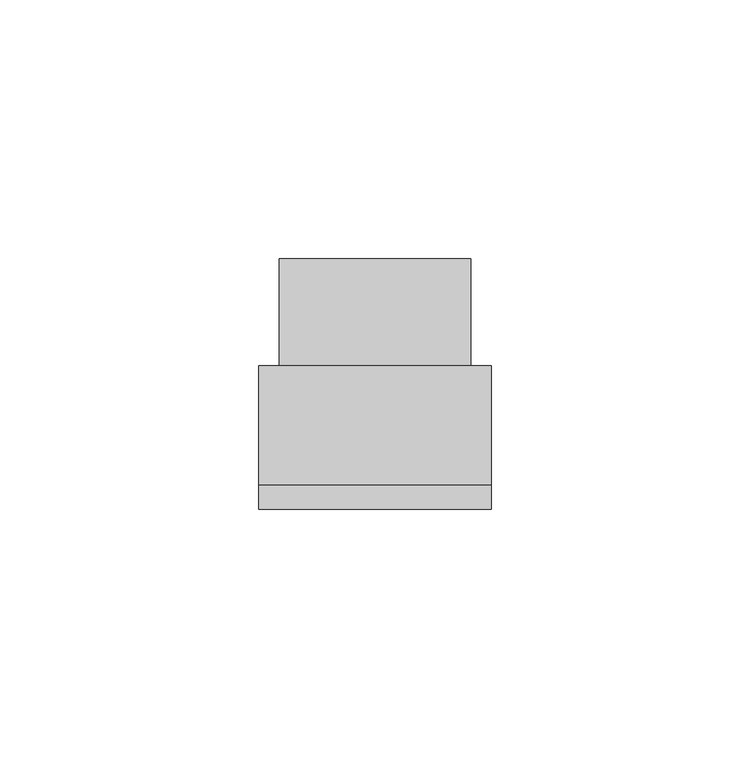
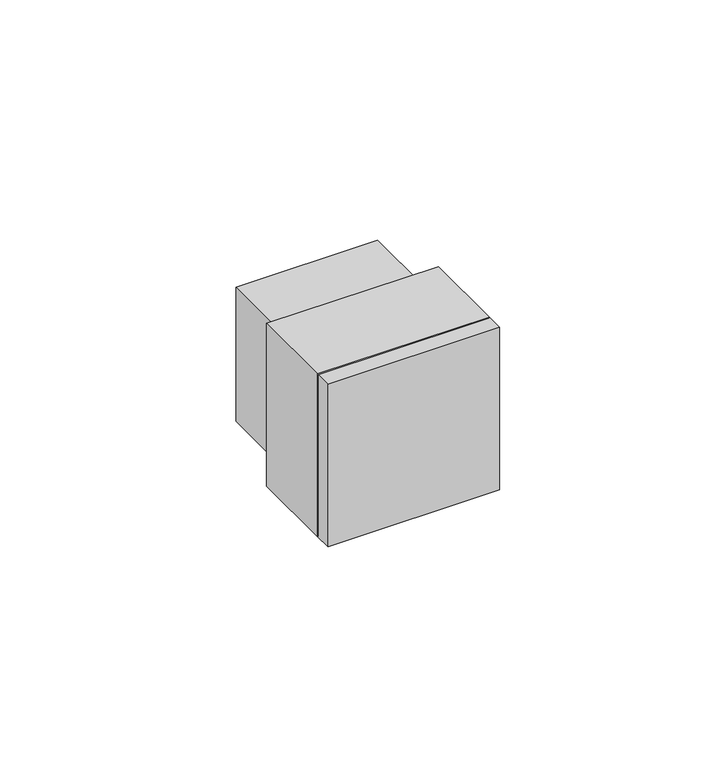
"""IFC4 building model written with IfcOpenShell, lengths in millimetres: proxy geometry."""

import ifcopenshell
import ifcopenshell.guid

model = None  # the IFC model being written
_history = None  # IfcOwnerHistory: only IFC2X3 demands one
_inside = {}  # id of a spatial element -> (the spatial element, [elements in it])
_under = {}  # id of a project, library or spatial element -> (it, [spatial elements below it])
_declared = {}  # id of a project -> (the project, [libraries it declares])
_typed = {}  # id of a type object -> (the type object, [elements of that type])
_made_of = {}  # id of a material, layer set ... -> (it, [elements and type objects made of it])


def new_model(schema):
    """Start an empty IFC model of exactly this schema.

    Asked for "IFC4X3", IfcOpenShell would pick the latest addendum, in which some entities
    have other attributes; the version numbers below select the first issue.
    IFC2X3 requires an IfcOwnerHistory on every rooted entity: one is made here for all.
    """
    global model, _history
    if schema == "IFC4X3":
        model = ifcopenshell.file(schema_version=(4, 3, 0, 0))
    else:
        model = ifcopenshell.file(schema=schema)
    _inside.clear()
    _under.clear()
    _declared.clear()
    _typed.clear()
    _made_of.clear()
    _history = None
    if model.schema == "IFC2X3":
        org = make("IfcOrganization", Name="unknown")
        user = make(
            "IfcPersonAndOrganization",
            ThePerson=make("IfcPerson", FamilyName="unknown"),
            TheOrganization=org,
        )
        app = make(
            "IfcApplication",
            ApplicationDeveloper=org,
            Version="unknown",
            ApplicationFullName="unknown",
            ApplicationIdentifier="unknown",
        )
        _history = make(
            "IfcOwnerHistory",
            OwningUser=user,
            OwningApplication=app,
            ChangeAction="ADDED",
            CreationDate=0,
        )
    return model


def make(cls, **values):
    """One entity of the class cls with the attributes given. An attribute that is None is left unset."""
    return model.create_entity(
        cls, **{name: value for name, value in values.items() if value is not None}
    )


def rooted(cls, **values):
    """An entity with a GlobalId (a new one), such as an element, a storey or a relation."""
    return make(cls, GlobalId=ifcopenshell.guid.new(), OwnerHistory=_history, **values)


def si_unit(unit_type, name, prefix=None):
    """IfcSIUnit, for example si_unit("LENGTHUNIT", "METRE", prefix="MILLI")."""
    return make("IfcSIUnit", UnitType=unit_type, Prefix=prefix, Name=name)


def assignment(units):
    """IfcUnitAssignment: the units of a project."""
    return None if units is None else make("IfcUnitAssignment", Units=units)


def point(xyz):
    """IfcCartesianPoint."""
    return None if xyz is None else make("IfcCartesianPoint", Coordinates=xyz)


def direction(xyz):
    """IfcDirection."""
    return None if xyz is None else make("IfcDirection", DirectionRatios=xyz)


def frame(location, z_axis=None, x_axis=None):
    """IfcAxis2Placement3D, a coordinate frame: its origin and axes. An axis left out is left unset."""
    return make(
        "IfcAxis2Placement3D",
        Location=point(location),
        Axis=direction(z_axis),
        RefDirection=direction(x_axis),
    )


def origin():
    """The frame at (0, 0, 0) with its axes left unset."""
    return frame((0.0, 0.0, 0.0))


def place(relative_to, where):
    """IfcLocalPlacement: puts the frame where relative to a parent placement (None: the world)."""
    return make(
        "IfcLocalPlacement", PlacementRelTo=relative_to, RelativePlacement=where
    )


def context(
    kind, dimensions, precision=None, world=None, true_north=None, identifier=None
):
    """IfcGeometricRepresentationContext, for example the 3D "Model" context."""
    return make(
        "IfcGeometricRepresentationContext",
        ContextIdentifier=identifier,
        ContextType=kind,
        CoordinateSpaceDimension=dimensions,
        Precision=precision,
        WorldCoordinateSystem=world,
        TrueNorth=true_north,
    )


def project(units=None, contexts=None):
    """IfcProject with its units and contexts."""
    return rooted(
        "IfcProject",
        Name="project",
        RepresentationContexts=contexts,
        UnitsInContext=assignment(units),
    )


def spatial(cls, under=None, at=None, **own):
    """A site, building, storey or space (cls), placed at a placement, below another one or the project."""
    s = rooted(cls, ObjectPlacement=at, **own)
    if under is not None:
        _under.setdefault(under.id(), (under, []))[1].append(s)
    return s


def polyline(points):
    """IfcPolyline through the points."""
    return make("IfcPolyline", Points=[point(p) for p in points])


def circle_curve(where, radius):
    """IfcCircle in the frame where."""
    return make("IfcCircle", Position=where, Radius=radius)


def outline(outer, holes=None, kind="AREA"):
    """IfcArbitraryClosedProfileDef: a profile drawn as a closed curve; with holes, ...WithVoids."""
    if holes is None:
        return make("IfcArbitraryClosedProfileDef", ProfileType=kind, OuterCurve=outer)
    return make(
        "IfcArbitraryProfileDefWithVoids",
        ProfileType=kind,
        OuterCurve=outer,
        InnerCurves=holes,
    )


def extrude(swept, where, along, depth):
    """IfcExtrudedAreaSolid: the profile swept, set in the frame where, extruded along a direction by depth."""
    return make(
        "IfcExtrudedAreaSolid",
        SweptArea=swept,
        Position=where,
        ExtrudedDirection=direction(along),
        Depth=depth,
    )


def shape(context_of_items, identifier, shape_type, items):
    """IfcShapeRepresentation: the items that make up one representation, for example the "Body"."""
    return make(
        "IfcShapeRepresentation",
        ContextOfItems=context_of_items,
        RepresentationIdentifier=identifier,
        RepresentationType=shape_type,
        Items=items,
    )


def source(mapping_origin, context_of_items, identifier, shape_type, items):
    """IfcRepresentationMap: a shape defined once, which mapped items show again and again."""
    return make(
        "IfcRepresentationMap",
        MappingOrigin=mapping_origin,
        MappedRepresentation=shape(context_of_items, identifier, shape_type, items),
    )


def transform(
    local_origin,
    x_axis=None,
    y_axis=None,
    z_axis=None,
    scale=None,
    scale2=None,
    scale3=None,
    uniform=True,
):
    """IfcCartesianTransformationOperator3D, or its non-uniform kind. x_axis, y_axis, z_axis: its Axis1, 2, 3."""
    if uniform:
        return make(
            "IfcCartesianTransformationOperator3D",
            Axis1=direction(x_axis),
            Axis2=direction(y_axis),
            LocalOrigin=point(local_origin),
            Scale=scale,
            Axis3=direction(z_axis),
        )
    return make(
        "IfcCartesianTransformationOperator3DnonUniform",
        Axis1=direction(x_axis),
        Axis2=direction(y_axis),
        LocalOrigin=point(local_origin),
        Scale=scale,
        Axis3=direction(z_axis),
        Scale2=scale2,
        Scale3=scale3,
    )


def mapped(mapping_source, mapping_target):
    """IfcMappedItem: shows the shape of a source again, moved by a transform."""
    return make(
        "IfcMappedItem", MappingSource=mapping_source, MappingTarget=mapping_target
    )


def made_of(thing, what):
    """Note that an element or type object is made of a material, layer set ...; save() writes the relation."""
    if what is not None:
        _made_of.setdefault(what.id(), (what, []))[1].append(thing)
    return thing


def element(
    cls,
    number,
    at=None,
    inside=None,
    cuts=None,
    type_object=None,
    material=None,
    context=None,
    identifier="Body",
    shape_type=None,
    held_by="IfcProductDefinitionShape",
    body=None,
    shapes=None,
    **own,
):
    """One element of the class cls, such as IfcWall. Its Tag is "e" and its number.

    at: its placement. inside: the storey or other place that contains it. cuts: it is an
    opening in that element (IfcRelVoidsElement). A single representation is given by context,
    identifier, shape_type and body (its items); several are given by shapes. held_by: the class
    of the entity that holds the representations. save() writes the other relations.
    """
    e = rooted(cls, Tag="e%d" % number, ObjectPlacement=at, **own)
    if body is not None:
        shapes = [shape(context, identifier, shape_type, body)]
    if shapes is not None:
        e.Representation = make(held_by, Representations=shapes)
    if inside is not None:
        _inside.setdefault(inside.id(), (inside, []))[1].append(e)
    if cuts is not None:
        rooted(
            "IfcRelVoidsElement", RelatingBuildingElement=cuts, RelatedOpeningElement=e
        )
    if type_object is not None:
        _typed.setdefault(type_object.id(), (type_object, []))[1].append(e)
    return made_of(e, material)


def aggregate(whole, parts):
    """IfcRelAggregates: a whole, such as a stair, and the parts it consists of."""
    return rooted("IfcRelAggregates", RelatingObject=whole, RelatedObjects=parts)


def save(model, path):
    """Write the relations noted so far, then the file.

    IfcRelAggregates (storeys below a building ...), IfcRelContainedInSpatialStructure (elements
    in a storey), IfcRelDefinesByType, IfcRelAssociatesMaterial and IfcRelDeclares: one each for
    every whole, place, type object, material and project.
    """
    for whole, parts in _under.values():
        aggregate(whole, parts)
    for where, things in _inside.values():
        rooted(
            "IfcRelContainedInSpatialStructure",
            RelatedElements=things,
            RelatingStructure=where,
        )
    for kind, things in _typed.values():
        rooted("IfcRelDefinesByType", RelatedObjects=things, RelatingType=kind)
    for what, things in _made_of.values():
        rooted("IfcRelAssociatesMaterial", RelatedObjects=things, RelatingMaterial=what)
    for by, libraries in _declared.values():
        rooted("IfcRelDeclares", RelatingContext=by, RelatedDefinitions=libraries)
    model.write(path)


def plane_surface(at):
    """IfcPlane: the flat surface through the origin of the frame at, square to its z axis."""
    return make("IfcPlane", Position=at)


def revolved_surface(curve, axis_point, axis_direction):
    """IfcSurfaceOfRevolution: the curve turned about the line through axis_point along axis_direction."""
    return make(
        "IfcSurfaceOfRevolution",
        SweptCurve=make("IfcArbitraryOpenProfileDef", ProfileType="CURVE", Curve=curve),
        AxisPosition=make("IfcAxis1Placement", Location=point(axis_point), Axis=direction(axis_direction)),
    )


def advanced_brep(points, edges, surfaces, faces):
    """IfcAdvancedBrep: a solid bounded by faces that lie on surfaces and meet in shared edges.

    An edge is (start, end): straight between two places in points (the first is 0);
    or (start, end, curve); or (start, end, curve, False) where it runs against its curve.
    A face is (place in surfaces, loops), or (place, loops, False) where it looks against
    its surface's normal. A loop lists edges by number (the first is 1), with a minus sign
    where the edge is run from its end to its start. The first loop is the outer one.
    """
    corners = [point(p) for p in points]
    vertices = [make("IfcVertexPoint", VertexGeometry=c) for c in corners]
    made = []
    for start, end, *more in edges:
        made.append(
            make(
                "IfcEdgeCurve",
                EdgeStart=vertices[start],
                EdgeEnd=vertices[end],
                EdgeGeometry=more[0] if more else make("IfcPolyline", Points=[corners[start], corners[end]]),
                SameSense=more[1] if len(more) > 1 else True,
            )
        )
    hull = []
    for where, loops, *sense in faces:
        bounds = []
        for j, loop in enumerate(loops):
            ring = [make("IfcOrientedEdge", EdgeElement=made[abs(k) - 1], Orientation=k > 0) for k in loop]
            bounds.append(
                make(
                    "IfcFaceOuterBound" if j == 0 else "IfcFaceBound",
                    Bound=make("IfcEdgeLoop", EdgeList=ring),
                    Orientation=True,
                )
            )
        hull.append(make("IfcAdvancedFace", Bounds=bounds, FaceSurface=surfaces[where], SameSense=sense[0] if sense else True))
    return make("IfcAdvancedBrep", Outer=make("IfcClosedShell", CfsFaces=hull))


def electrical_fixtures_16670ead(model_context):
    return source(origin(), model_context, "Body", "SolidModel", [
        advanced_brep(
        [(22.45, -43.7, -22.45), (22.45, -43.7, 22.45), (-22.45, -43.7, 22.45), (-22.45, -43.7, -22.45), (-19.7737199, -43.7, 3.0), (-16.2525449, -43.7, 3.0), (-16.2525449, -43.7, 12.4056761), (-1.5019291, -43.7, 20.3909348), (-1.5019291, -43.7, 14.6935255), (1.5019291, -43.7, 14.6935255), (1.5019291, -43.7, 20.3909348), (16.2525449, -43.7, 12.4056761), (16.2525449, -43.7, 3.0), (19.7737199, -43.7, 3.0), (19.7737199, -43.7, -3.0), (16.2525449, -43.7, -3.0), (16.2525449, -43.7, -10.9056761), (1.5019291, -43.7, -19.5146918), (1.5019291, -43.7, -13.1935255), (-1.5019291, -43.7, -13.1935255), (-1.5019291, -43.7, -19.5146918), (-16.2525449, -43.7, -10.9056761), (-16.2525449, -43.7, -3.0), (-19.7737199, -43.7, -3.0), (22.45, -20.7, -22.45), (-22.45, -20.7, -22.45), (-22.45, -20.7, 22.45), (22.45, -20.7, 22.45), (-6.5, -20.7, 0.0), (-12.5, -20.7, 0.0), (12.5, -20.7, 0.0), (6.5, -20.7, 0.0), (-19.7737199, -23.7, 3.0), (-19.7737199, -23.7, -3.0), (-16.2525449, -23.7, -3.0), (-16.2525449, -23.7, -10.9056761), (-1.5019291, -23.7, -19.5146918), (-1.5019291, -23.7, -13.1935255), (1.5019291, -23.7, -13.1935255), (1.5019291, -23.7, -19.5146918), (16.2525449, -23.7, -10.9056761), (16.2525449, -23.7, -3.0), (19.7737199, -23.7, -3.0), (19.7737199, -23.7, 3.0), (16.2525449, -23.7, 3.0), (16.2525449, -23.7, 12.4056761), (1.5019291, -23.7, 20.3909348), (1.5019291, -23.7, 14.6935255), (-1.5019291, -23.7, 14.6935255), (-1.5019291, -23.7, 20.3909348), (-16.2525449, -23.7, 12.4056761), (-16.2525449, -23.7, 3.0), (-12.5, -23.7, 0.0), (-6.5, -23.7, 0.0), (6.5, -23.7, 0.0), (12.5, -23.7, 0.0)],
        [
            (0, 1),
            (1, 2),
            (2, 3),
            (3, 0),
            (4, 5),
            (5, 6),
            (6, 7, circle_curve(frame((0.0, -43.7, 0.0), z_axis=(0.0, 1.0, 0.0), x_axis=(1.0, 0.0, 0.0)), 20.4461736)),
            (7, 8),
            (8, 9),
            (9, 10),
            (10, 11, circle_curve(frame((0.0, -43.7, 0.0), z_axis=(0.0, 1.0, 0.0), x_axis=(1.0, 0.0, 0.0)), 20.4461736)),
            (11, 12),
            (12, 13),
            (13, 14, circle_curve(frame((0.0, -43.7, 0.0), z_axis=(0.0, 1.0, 0.0), x_axis=(1.0, 0.0, 0.0)), 20.0)),
            (14, 15),
            (15, 16),
            (16, 17, circle_curve(frame((0.0, -43.7, 0.0), z_axis=(0.0, 1.0, 0.0), x_axis=(1.0, 0.0, 0.0)), 19.5724037)),
            (17, 18),
            (18, 19),
            (19, 20),
            (20, 21, circle_curve(frame((0.0, -43.7, 0.0), z_axis=(0.0, 1.0, 0.0), x_axis=(1.0, 0.0, 0.0)), 19.5724037)),
            (21, 22),
            (22, 23),
            (23, 4, circle_curve(frame((0.0, -43.7, 0.0), z_axis=(0.0, 1.0, 0.0), x_axis=(1.0, 0.0, 0.0)), 20.0)),
            (24, 25),
            (25, 26),
            (26, 27),
            (27, 24),
            (28, 29, circle_curve(frame((-9.5, -20.7, 0.0), z_axis=(0.0, -1.0, 0.0), x_axis=(1.0, 0.0, 0.0)), 3.0)),
            (29, 28, circle_curve(frame((-9.5, -20.7, 0.0), z_axis=(0.0, -1.0, 0.0), x_axis=(1.0, 0.0, 0.0)), 3.0)),
            (30, 31, circle_curve(frame((9.5, -20.7, 0.0), z_axis=(0.0, -1.0, 0.0), x_axis=(1.0, 0.0, 0.0)), 3.0)),
            (31, 30, circle_curve(frame((9.5, -20.7, 0.0), z_axis=(0.0, -1.0, 0.0), x_axis=(1.0, 0.0, 0.0)), 3.0)),
            (3, 25),
            (24, 0),
            (2, 26),
            (1, 27),
            (32, 33, circle_curve(frame((0.0, -23.7, 0.0), z_axis=(0.0, -1.0, 0.0), x_axis=(1.0, 0.0, 0.0)), 20.0)),
            (33, 34),
            (34, 35),
            (35, 36, circle_curve(frame((0.0, -23.7, 0.0), z_axis=(0.0, -1.0, 0.0), x_axis=(1.0, 0.0, 0.0)), 19.5724037)),
            (36, 37),
            (37, 38),
            (38, 39),
            (39, 40, circle_curve(frame((0.0, -23.7, 0.0), z_axis=(0.0, -1.0, 0.0), x_axis=(1.0, 0.0, 0.0)), 19.5724037)),
            (40, 41),
            (41, 42),
            (42, 43, circle_curve(frame((0.0, -23.7, 0.0), z_axis=(0.0, -1.0, 0.0), x_axis=(1.0, 0.0, 0.0)), 20.0)),
            (43, 44),
            (44, 45),
            (45, 46, circle_curve(frame((0.0, -23.7, 0.0), z_axis=(0.0, -1.0, 0.0), x_axis=(1.0, 0.0, 0.0)), 20.4461736)),
            (46, 47),
            (47, 48),
            (48, 49),
            (49, 50, circle_curve(frame((0.0, -23.7, 0.0), z_axis=(0.0, -1.0, 0.0), x_axis=(1.0, 0.0, 0.0)), 20.4461736)),
            (50, 51),
            (51, 32),
            (52, 53, circle_curve(frame((-9.5, -23.7, 0.0), z_axis=(0.0, 1.0, 0.0), x_axis=(1.0, 0.0, 0.0)), 3.0)),
            (53, 52, circle_curve(frame((-9.5, -23.7, 0.0), z_axis=(0.0, 1.0, 0.0), x_axis=(1.0, 0.0, 0.0)), 3.0)),
            (54, 55, circle_curve(frame((9.5, -23.7, 0.0), z_axis=(0.0, 1.0, 0.0), x_axis=(1.0, 0.0, 0.0)), 3.0)),
            (55, 54, circle_curve(frame((9.5, -23.7, 0.0), z_axis=(0.0, 1.0, 0.0), x_axis=(1.0, 0.0, 0.0)), 3.0)),
            (51, 5),
            (4, 32),
            (50, 6),
            (49, 7),
            (48, 8),
            (47, 9),
            (46, 10),
            (45, 11),
            (44, 12),
            (43, 13),
            (42, 14),
            (41, 15),
            (40, 16),
            (39, 17),
            (38, 18),
            (37, 19),
            (36, 20),
            (35, 21),
            (34, 22),
            (33, 23),
            (52, 29),
            (28, 53),
            (54, 31),
            (30, 55),
        ],
        [
            plane_surface(frame((-26.0, -43.7, -22.45), z_axis=(0.0, -1.0, 0.0), x_axis=(1.0, 0.0, 0.0))),
            plane_surface(frame((-26.0, -20.7, -22.45), z_axis=(0.0, 1.0, 0.0), x_axis=(-1.0, 0.0, 0.0))),
            plane_surface(frame((22.45, -20.7, -22.45), z_axis=(0.0, 0.0, -1.0), x_axis=(0.0, -1.0, 0.0))),
            plane_surface(frame((-22.45, -20.7, -22.45), z_axis=(-1.0, 0.0, 0.0), x_axis=(0.0, -1.0, 0.0))),
            plane_surface(frame((-22.45, -20.7, 22.45), z_axis=(0.0, 0.0, 1.0), x_axis=(0.0, -1.0, 0.0))),
            plane_surface(frame((22.45, -20.7, 22.45), z_axis=(1.0, 0.0, 0.0), x_axis=(0.0, -1.0, 0.0))),
            plane_surface(frame((-19.7737199, -23.7, 3.0), z_axis=(0.0, -1.0, 0.0), x_axis=(1.0, 0.0, 0.0))),
            plane_surface(frame((-19.7737199, -23.7, 3.0), z_axis=(0.0, 0.0, -1.0), x_axis=(0.0, -1.0, 0.0))),
            plane_surface(frame((-16.2525449, -23.7, 3.0), z_axis=(1.0, 0.0, 0.0), x_axis=(0.0, -1.0, 0.0))),
            revolved_surface(polyline([(20.4461736, -23.7, 0.0), (20.4461736, -43.7, 0.0)]), (0.0, -43.7, 0.0), (0.0, 1.0, 0.0)),
            plane_surface(frame((-1.5019291, -23.7, 20.3909348), z_axis=(-1.0, 0.0, 0.0), x_axis=(0.0, -1.0, 0.0))),
            plane_surface(frame((-1.5019291, -23.7, 14.6935255), z_axis=(0.0, 0.0, -1.0), x_axis=(0.0, -1.0, 0.0))),
            plane_surface(frame((1.5019291, -23.7, 14.6935255), z_axis=(1.0, 0.0, 0.0), x_axis=(0.0, -1.0, 0.0))),
            plane_surface(frame((16.2525449, -23.7, 12.4056761), z_axis=(-1.0, 0.0, 0.0), x_axis=(0.0, -1.0, 0.0))),
            plane_surface(frame((16.2525449, -23.7, 3.0), z_axis=(0.0, 0.0, -1.0), x_axis=(0.0, -1.0, 0.0))),
            revolved_surface(polyline([(20.0, -23.7, 0.0), (20.0, -43.7, 0.0)]), (0.0, -43.7, 0.0), (0.0, 1.0, 0.0)),
            plane_surface(frame((19.7737199, -23.7, -3.0), z_axis=(0.0, 0.0, 1.0), x_axis=(0.0, -1.0, 0.0))),
            plane_surface(frame((16.2525449, -23.7, -3.0), z_axis=(-1.0, 0.0, 0.0), x_axis=(0.0, -1.0, 0.0))),
            revolved_surface(polyline([(19.5724037, -23.7, 0.0), (19.5724037, -43.7, 0.0)]), (0.0, -43.7, 0.0), (0.0, 1.0, 0.0)),
            plane_surface(frame((1.5019291, -23.7, -19.5146918), z_axis=(1.0, 0.0, 0.0), x_axis=(0.0, -1.0, 0.0))),
            plane_surface(frame((1.5019291, -23.7, -13.1935255), z_axis=(0.0, 0.0, 1.0), x_axis=(0.0, -1.0, 0.0))),
            plane_surface(frame((-1.5019291, -23.7, -13.1935255), z_axis=(-1.0, 0.0, 0.0), x_axis=(0.0, -1.0, 0.0))),
            plane_surface(frame((-16.2525449, -23.7, -10.9056761), z_axis=(1.0, 0.0, 0.0), x_axis=(0.0, -1.0, 0.0))),
            plane_surface(frame((-16.2525449, -23.7, -3.0), z_axis=(0.0, 0.0, 1.0), x_axis=(0.0, -1.0, 0.0))),
            revolved_surface(polyline([(-6.5, -20.7, 0.0), (-6.5, -23.7, 0.0)]), (-9.5, -23.7, 0.0), (0.0, 1.0, 0.0)),
            revolved_surface(polyline([(12.5, -20.7, 0.0), (12.5, -23.7, 0.0)]), (9.5, -34.7, 0.0), (0.0, 1.0, 0.0)),
        ],
        [
            (0, [[1, 2, 3, 4], [5, 6, 7, 8, 9, 10, 11, 12, 13, 14, 15, 16, 17, 18, 19, 20, 21, 22, 23, 24]]),
            (1, [[25, 26, 27, 28], [29, 30], [31, 32]]),
            (2, [[-4, 33, -25, 34]]),
            (3, [[-3, 35, -26, -33]]),
            (4, [[-2, 36, -27, -35]]),
            (5, [[-1, -34, -28, -36]]),
            (6, [[37, 38, 39, 40, 41, 42, 43, 44, 45, 46, 47, 48, 49, 50, 51, 52, 53, 54, 55, 56], [57, 58], [59, 60]]),
            (7, [[-56, 61, -5, 62]]),
            (8, [[-55, 63, -6, -61]]),
            (9, [[-54, 64, -7, -63]]),
            (10, [[-53, 65, -8, -64]]),
            (11, [[-52, 66, -9, -65]]),
            (12, [[-51, 67, -10, -66]]),
            (9, [[-50, 68, -11, -67]]),
            (13, [[-49, 69, -12, -68]]),
            (14, [[-48, 70, -13, -69]]),
            (15, [[-47, 71, -14, -70]]),
            (16, [[-46, 72, -15, -71]]),
            (17, [[-45, 73, -16, -72]]),
            (18, [[-44, 74, -17, -73]]),
            (19, [[-43, 75, -18, -74]]),
            (20, [[-42, 76, -19, -75]]),
            (21, [[-41, 77, -20, -76]]),
            (18, [[-40, 78, -21, -77]]),
            (22, [[-39, 79, -22, -78]]),
            (23, [[-38, 80, -23, -79]]),
            (15, [[-37, -62, -24, -80]]),
            (24, [[81, -29, 82, -57]]),
            (24, [[-81, -58, -82, -30]]),
            (25, [[83, -31, 84, -59]]),
            (25, [[-83, -60, -84, -32]]),
        ],
    ),
        advanced_brep(
        [(-12.5, -3.7, 0.0), (-6.5, -3.7, 0.0), (6.5, -3.7, 0.0), (12.5, -3.7, 0.0), (-6.5, -20.7, 0.0), (-12.5, -20.7, 0.0), (12.5, -20.7, 0.0), (6.5, -20.7, 0.0), (18.5, 0.0, -18.5), (-18.5, 0.0, -18.5), (-18.5, 0.0, 18.5), (18.5, 0.0, 18.5), (18.5, -20.7, -18.5), (18.5, -20.7, 18.5), (-18.5, -20.7, 18.5), (-18.5, -20.7, -18.5)],
        [
            (0, 1, circle_curve(frame((-9.5, -3.7, 0.0), z_axis=(0.0, -1.0, 0.0), x_axis=(1.0, 0.0, 0.0)), 3.0)),
            (1, 0, circle_curve(frame((-9.5, -3.7, 0.0), z_axis=(0.0, -1.0, 0.0), x_axis=(1.0, 0.0, 0.0)), 3.0)),
            (2, 3, circle_curve(frame((9.5, -3.7, 0.0), z_axis=(0.0, -1.0, 0.0), x_axis=(1.0, 0.0, 0.0)), 3.0)),
            (3, 2, circle_curve(frame((9.5, -3.7, 0.0), z_axis=(0.0, -1.0, 0.0), x_axis=(1.0, 0.0, 0.0)), 3.0)),
            (1, 4),
            (4, 5, circle_curve(frame((-9.5, -20.7, 0.0), z_axis=(0.0, -1.0, 0.0), x_axis=(1.0, 0.0, 0.0)), 3.0)),
            (5, 0),
            (5, 4, circle_curve(frame((-9.5, -20.7, 0.0), z_axis=(0.0, -1.0, 0.0), x_axis=(1.0, 0.0, 0.0)), 3.0)),
            (3, 6),
            (6, 7, circle_curve(frame((9.5, -20.7, 0.0), z_axis=(0.0, -1.0, 0.0), x_axis=(1.0, 0.0, 0.0)), 3.0)),
            (7, 2),
            (7, 6, circle_curve(frame((9.5, -20.7, 0.0), z_axis=(0.0, -1.0, 0.0), x_axis=(1.0, 0.0, 0.0)), 3.0)),
            (8, 9),
            (9, 10),
            (10, 11),
            (11, 8),
            (12, 13),
            (13, 14),
            (14, 15),
            (15, 12),
            (8, 12),
            (15, 9),
            (14, 10),
            (13, 11),
        ],
        [
            plane_surface(frame((-6.5, -3.7, 0.0), z_axis=(0.0, -1.0, 0.0), x_axis=(0.0, 0.0, -1.0))),
            revolved_surface(polyline([(-6.5, -3.6999999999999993, 0.0), (-6.5, -20.7, 0.0)]), (-9.5, -23.7, 0.0), (0.0, 1.0, 0.0)),
            revolved_surface(polyline([(12.5, -3.6999999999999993, 0.0), (12.5, -20.7, 0.0)]), (9.5, -34.7, 0.0), (0.0, 1.0, 0.0)),
            plane_surface(frame((-18.5, 0.0, -18.5), z_axis=(0.0, 1.0, 0.0), x_axis=(-1.0, 0.0, 0.0))),
            plane_surface(frame((-18.5, -20.7, -18.5), z_axis=(0.0, -1.0, 0.0), x_axis=(1.0, 0.0, 0.0))),
            plane_surface(frame((18.5, 0.0, -18.5), z_axis=(0.0, 0.0, -1.0), x_axis=(0.0, -1.0, 0.0))),
            plane_surface(frame((-18.5, 0.0, -18.5), z_axis=(-1.0, 0.0, 0.0), x_axis=(0.0, -1.0, 0.0))),
            plane_surface(frame((-18.5, 0.0, 18.5), z_axis=(0.0, 0.0, 1.0), x_axis=(0.0, -1.0, 0.0))),
            plane_surface(frame((18.5, 0.0, 18.5), z_axis=(1.0, 0.0, 0.0), x_axis=(0.0, -1.0, 0.0))),
        ],
        [
            (0, [[1, 2]]),
            (0, [[3, 4]]),
            (1, [[-2, 5, 6, 7]]),
            (1, [[-1, -7, 8, -5]]),
            (2, [[-4, 9, 10, 11]]),
            (2, [[-3, -11, 12, -9]]),
            (3, [[13, 14, 15, 16]]),
            (4, [[17, 18, 19, 20], [-6, -8], [-10, -12]]),
            (5, [[-13, 21, -20, 22]]),
            (6, [[-14, -22, -19, 23]]),
            (7, [[-15, -23, -18, 24]]),
            (8, [[-16, -24, -17, -21]]),
        ],
    ),
        extrude(outline(polyline([(-22.45, -43.7), (22.45, -43.7), (22.45, -48.4), (-22.45, -48.4), (-22.45, -43.7)])), frame((0.0, 0.0, -22.45), z_axis=(0.0, 0.0, 1.0), x_axis=(1.0, 0.0, 0.0)), (0.0, 0.0, 1.0), 44.9),
    ])


if __name__ == "__main__":
    model = new_model("IFC4")
    model_context = context("Model", 3, world=origin())
    ifc_project = project(units=[si_unit("LENGTHUNIT", "METRE", prefix="MILLI")], contexts=[model_context])
    site = spatial("IfcSite", under=ifc_project)
    building = spatial("IfcBuilding", under=site)
    placement = place(None, origin())
    electrical_fixtures_shape = electrical_fixtures_16670ead(model_context)
    element("IfcBuildingElementProxy", 1, Name="Electrical Fixtures", at=placement, inside=building, context=model_context, shape_type="MappedRepresentation", body=[
        mapped(electrical_fixtures_shape, transform((0.0, 0.0, 0.0), x_axis=(1.0, 0.0, 0.0), y_axis=(0.0, 1.0, 0.0), z_axis=(0.0, 0.0, 1.0))),
    ])
    save(model, "model.ifc")
